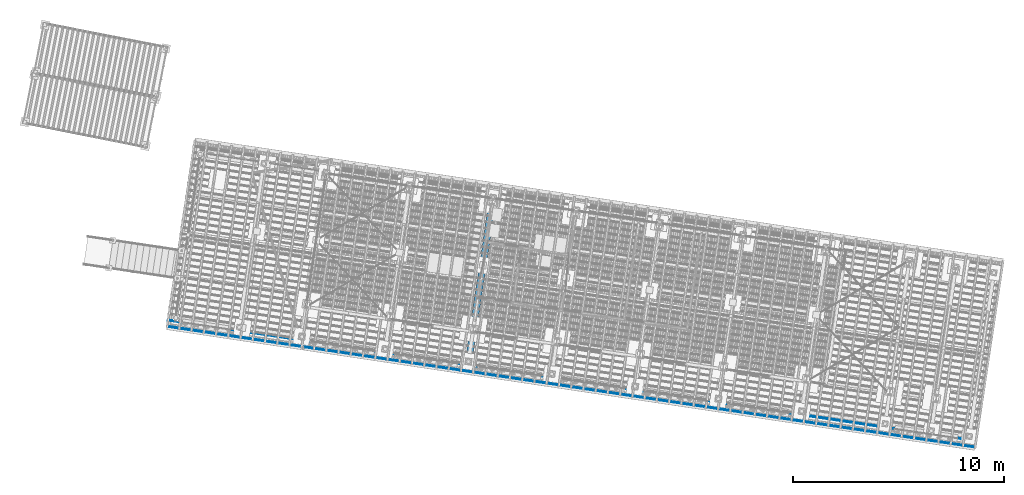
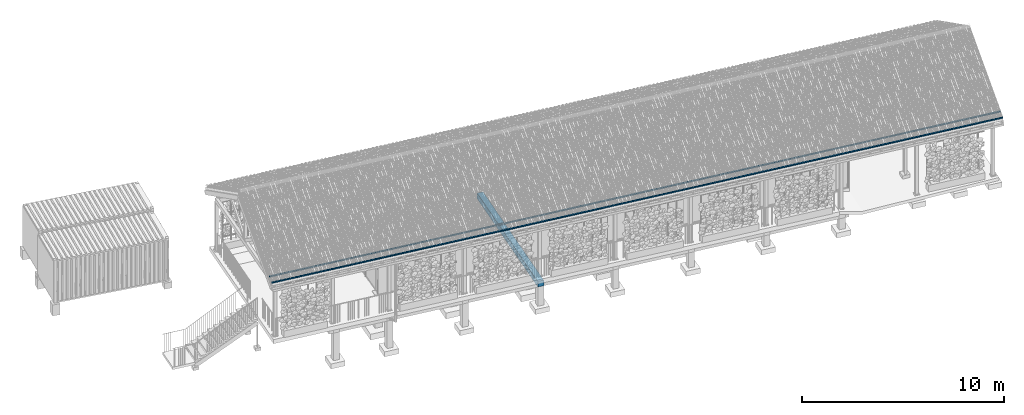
# One storey, part 59 of 131: 2 members, 1 beam, 2 elements without a shape of their own.
"""IFC4 building model written with IfcOpenShell, lengths in metres."""

from ifc_helpers import new_model, si_unit, direction, frame, origin_with_axes, place, context, subcontext, project, spatial, polyline, rectangle, outline, extrude, material, material_profile, profile_set, profile_usage, type_object, element, aggregate, save


model = new_model("IFC4")

# Units and contexts
model_context = context("Model", 3, precision=1e-05, world=origin_with_axes(), true_north=direction((0.0, 1.0)))
body_context = subcontext(model_context, "Body", "Model", "MODEL_VIEW")
ifc_project = project(units=[si_unit("AREAUNIT", "SQUARE_METRE"), si_unit("VOLUMEUNIT", "CUBIC_METRE"), si_unit("LENGTHUNIT", "METRE")], contexts=[model_context])

# Site, building, storey
site_placement = place(None, origin_with_axes())
site = spatial("IfcSite", under=ifc_project, at=site_placement, Name="Lares · Rua das Mercês · artigo 4771")
building_placement = place(site_placement, frame((15.0, 9.7, 14.65), z_axis=(0.0, 0.0, 1.0), x_axis=(0.989015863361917, -0.147809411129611, 0.0)))
building = spatial("IfcBuilding", under=site, at=building_placement, Name="Casa Sobreposta")
storey_placement = place(building_placement, origin_with_axes())
storey = spatial("IfcBuildingStorey", under=building, at=storey_placement, Name="00 · Habitação e estacionamento", Elevation=14.65)

# Roof, members
ifc_material_1 = material(Name="Madeira / Bauholz", Category="wood")
roof_placement = place(storey_placement, origin_with_axes())
roof = element("IfcRoof", 1, at=roof_placement, inside=storey, material=ifc_material_1, Name="Cobertura de telha · duas águas 30 graus", PredefinedType="GABLE_ROOF")
ifc_material_profile = material_profile(ifc_material_1, rectangle(XDim=0.045, YDim=0.06))
ifc_profile_set = profile_set([ifc_material_profile], Name="TIMBER0.045x0.060")
ifc_profile_usage_1 = profile_usage(ifc_profile_set)
member_type = type_object("IfcMemberType", Name="TIMBER0.045x0.060 / timber", PredefinedType="NOTDEFINED", material=ifc_profile_set)
member_1_placement = place(roof_placement, frame((-6.4, -1.9, 3.534), z_axis=(1.0, 0.0, 0.0), x_axis=(0.0, -1.0, 0.0)))
member_1 = element("IfcMember", 2, at=member_1_placement, type_object=member_type, material=ifc_profile_usage_1, Name="Cobertura · ripa ventilada", context=body_context, shape_type="SweptSolid", body=[
    extrude(rectangle(XDim=0.045, YDim=0.06), origin_with_axes(), (0.0, 0.0, 1.0), 38.8),
])
ifc_profile_usage_2 = profile_usage(ifc_profile_set)
member_2_placement = place(roof_placement, frame((-6.4, -1.6, 3.70720508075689), z_axis=(1.0, 0.0, 0.0), x_axis=(0.0, -1.0, 0.0)))
member_2 = element("IfcMember", 3, at=member_2_placement, type_object=member_type, material=ifc_profile_usage_2, Name="Cobertura · ripa ventilada", context=body_context, shape_type="SweptSolid", body=[
    extrude(rectangle(XDim=0.045, YDim=0.06), origin_with_axes(), (0.0, 0.0, 1.0), 38.8),
])
aggregate(roof, [member_1, member_2])

# Assembly, beam
assembly_placement = place(storey_placement, origin_with_axes())
assembly = element("IfcElementAssembly", 4, at=assembly_placement, inside=storey, Name="Pódio · terraço, casa térrea e cisterna", ObjectType="CISTERN_PODIUM", PredefinedType="USERDEFINED")
ifc_material_2 = material(Name="Betão armado / Stahlbeton", Category="concrete")
beam_placement = place(assembly_placement, frame((0.0, 0.0, -0.59), z_axis=(0.0, 0.0, 1.0), x_axis=(1.0, 0.0, 0.0)))
beam = element("IfcBeam", 5, at=beam_placement, material=ifc_material_2, Name="Pódio suspenso · viga transversal", context=body_context, shape_type="SweptSolid", body=[
    extrude(outline(polyline([(8.16, -1.59), (8.16, 6.59), (7.84, 6.59), (7.84, -1.59), (8.16, -1.59)])), origin_with_axes(), (0.0, 0.0, 1.0), 0.34),
])
aggregate(assembly, [beam])

save(model, "model.ifc")
